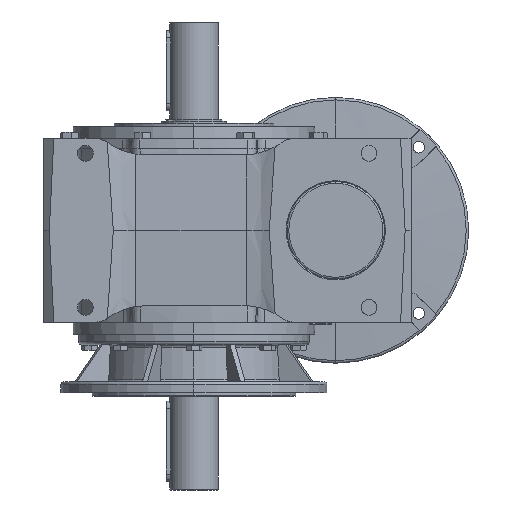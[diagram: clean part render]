
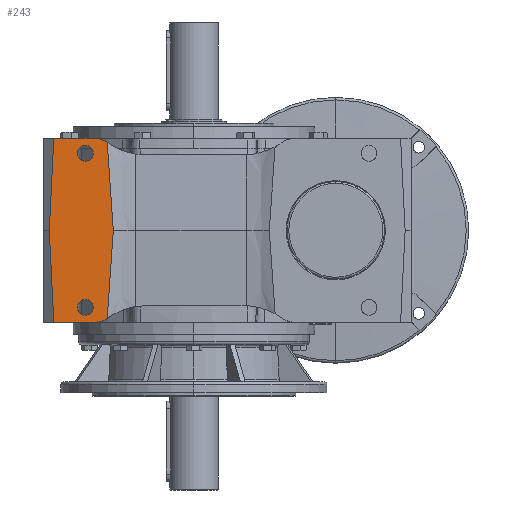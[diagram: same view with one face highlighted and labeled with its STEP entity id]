
A CAD part, left-side view. The second image highlights one B-rep face of the part: STEP entity #243.
In plain terms, the highlighted planar face has unit normal (-1, 0, 0).
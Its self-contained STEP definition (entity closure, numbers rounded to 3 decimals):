
#73 = VERTEX_POINT ( 'NONE', #31694 ) ;
#243 = ADVANCED_FACE ( 'NONE', ( #109684, #83463, #39307 ), #51735, .F. ) ;
#990 = CARTESIAN_POINT ( 'NONE',  ( -170., 92.258, -16.555 ) ) ;
#1153 = EDGE_CURVE ( 'NONE', #12434, #64230, #64775, .T. ) ;
#2210 = CARTESIAN_POINT ( 'NONE',  ( -170., 64.974, 104. ) ) ;
#3663 = EDGE_CURVE ( 'NONE', #89719, #73, #40336, .T. ) ;
#3740 = CARTESIAN_POINT ( 'NONE',  ( -170., 93.44, 33.115 ) ) ;
#4098 = VECTOR ( 'NONE', #42781, 1000. ) ;
#5344 = DIRECTION ( 'NONE',  ( -1., 0., 0. ) ) ;
#9798 = CARTESIAN_POINT ( 'NONE',  ( -170., 91.006, 0. ) ) ;
#10620 = CARTESIAN_POINT ( 'NONE',  ( -170., 122.5, -78. ) ) ;
#11312 = CIRCLE ( 'NONE', #21838, 9. ) ;
#11388 = ORIENTED_EDGE ( 'NONE', *, *, #44982, .F. ) ;
#12434 = VERTEX_POINT ( 'NONE', #77180 ) ;
#13824 = VERTEX_POINT ( 'NONE', #96093 ) ;
#17088 = ORIENTED_EDGE ( 'NONE', *, *, #64943, .T. ) ;
#18664 = CARTESIAN_POINT ( 'NONE',  ( -170., 93.44, -33.115 ) ) ;
#21838 = AXIS2_PLACEMENT_3D ( 'NONE', #97545, #44755, #106405 ) ;
#23187 = AXIS2_PLACEMENT_3D ( 'NONE', #95669, #33960, #60592 ) ;
#24915 = EDGE_CURVE ( 'NONE', #12434, #29427, #111631, .T. ) ;
#25866 = CARTESIAN_POINT ( 'NONE',  ( -170., 122.5, 78. ) ) ;
#26913 = AXIS2_PLACEMENT_3D ( 'NONE', #46255, #107926, #55069 ) ;
#26924 = EDGE_CURVE ( 'NONE', #13824, #38400, #96352, .T. ) ;
#27348 = CARTESIAN_POINT ( 'NONE',  ( -170., 113.851, -74. ) ) ;
#27494 = LINE ( 'NONE', #51235, #4098 ) ;
#27513 = CARTESIAN_POINT ( 'NONE',  ( -170., 96.799, -82.808 ) ) ;
#28520 = ORIENTED_EDGE ( 'NONE', *, *, #46827, .F. ) ;
#29427 = VERTEX_POINT ( 'NONE', #51637 ) ;
#30614 = CARTESIAN_POINT ( 'NONE',  ( -170., 97.852, 99.377 ) ) ;
#31064 = CARTESIAN_POINT ( 'NONE',  ( -170., 95.711, 66.242 ) ) ;
#31694 = CARTESIAN_POINT ( 'NONE',  ( -170., 122.5, -96. ) ) ;
#33620 = AXIS2_PLACEMENT_3D ( 'NONE', #27348, #89047, #36199 ) ;
#33960 = DIRECTION ( 'NONE',  ( 1., 0., 0. ) ) ;
#34464 = EDGE_CURVE ( 'NONE', #64230, #88981, #98189, .T. ) ;
#36199 = DIRECTION ( 'NONE',  ( 0., 1., 0. ) ) ;
#37594 = DIRECTION ( 'NONE',  ( 0., -1., 0. ) ) ;
#38400 = VERTEX_POINT ( 'NONE', #25866 ) ;
#39307 = FACE_OUTER_BOUND ( 'NONE', #96927, .T. ) ;
#39943 = CARTESIAN_POINT ( 'NONE',  ( -170., 97.852, 99.377 ) ) ;
#40336 = CIRCLE ( 'NONE', #86971, 9. ) ;
#42781 = DIRECTION ( 'NONE',  ( 0., 1., 0. ) ) ;
#43302 = DIRECTION ( 'NONE',  ( -1., 0., 0. ) ) ;
#44755 = DIRECTION ( 'NONE',  ( -1., 0., 0. ) ) ;
#44982 = EDGE_CURVE ( 'NONE', #73420, #88981, #96856, .T. ) ;
#46070 = DIRECTION ( 'NONE',  ( -1., 0., 0. ) ) ;
#46255 = CARTESIAN_POINT ( 'NONE',  ( -170., 122.5, 87. ) ) ;
#46827 = EDGE_CURVE ( 'NONE', #73, #89719, #110416, .T. ) ;
#47159 = ORIENTED_EDGE ( 'NONE', *, *, #61983, .T. ) ;
#47188 = VECTOR ( 'NONE', #37594, 1000. ) ;
#50603 = EDGE_LOOP ( 'NONE', ( #70525, #28520 ) ) ;
#51235 = CARTESIAN_POINT ( 'NONE',  ( -170., 64.974, -104. ) ) ;
#51637 = CARTESIAN_POINT ( 'NONE',  ( -170., 97.852, -99.377 ) ) ;
#51735 = PLANE ( 'NONE',  #23187 ) ;
#52291 = CARTESIAN_POINT ( 'NONE',  ( -170., 158.098, -104. ) ) ;
#55069 = DIRECTION ( 'NONE',  ( 0., 0., 1. ) ) ;
#55324 = ORIENTED_EDGE ( 'NONE', *, *, #24915, .F. ) ;
#57223 = CARTESIAN_POINT ( 'NONE',  ( -170., 158.159, -102.763 ) ) ;
#58138 = CARTESIAN_POINT ( 'NONE',  ( -170., 122.5, -87. ) ) ;
#59036 = ORIENTED_EDGE ( 'NONE', *, *, #64933, .F. ) ;
#59195 = EDGE_LOOP ( 'NONE', ( #69066, #59036 ) ) ;
#60592 = DIRECTION ( 'NONE',  ( 0., 1., 0. ) ) ;
#61983 = EDGE_CURVE ( 'NONE', #69552, #95018, #113881, .T. ) ;
#64230 = VERTEX_POINT ( 'NONE', #30614 ) ;
#64675 = EDGE_CURVE ( 'NONE', #69552, #73420, #101076, .T. ) ;
#64775 = B_SPLINE_CURVE_WITH_KNOTS ( 'NONE', 3,
 ( #83904, #74932, #3740, #31064, #92746, #39943 ),
 .UNSPECIFIED., .F., .F.,
 ( 4, 2, 4 ),
 ( 0.098, 0.147, 0.197 ),
 .UNSPECIFIED. ) ;
#64933 = EDGE_CURVE ( 'NONE', #38400, #13824, #11312, .T. ) ;
#64943 = EDGE_CURVE ( 'NONE', #90750, #29427, #78903, .T. ) ;
#65064 = ORIENTED_EDGE ( 'NONE', *, *, #34464, .T. ) ;
#66983 = DIRECTION ( 'NONE',  ( 0., 0., 1. ) ) ;
#69066 = ORIENTED_EDGE ( 'NONE', *, *, #26924, .F. ) ;
#69198 = EDGE_CURVE ( 'NONE', #90750, #95018, #27494, .T. ) ;
#69262 = VECTOR ( 'NONE', #74794, 1000. ) ;
#69552 = VERTEX_POINT ( 'NONE', #85086 ) ;
#70525 = ORIENTED_EDGE ( 'NONE', *, *, #3663, .F. ) ;
#71085 = CARTESIAN_POINT ( 'NONE',  ( -170., 158.098, 104. ) ) ;
#73385 = CARTESIAN_POINT ( 'NONE',  ( -170., 113.851, -104. ) ) ;
#73420 = VERTEX_POINT ( 'NONE', #71085 ) ;
#74794 = DIRECTION ( 'NONE',  ( 0., -0.049, 0.999 ) ) ;
#74932 = CARTESIAN_POINT ( 'NONE',  ( -170., 92.258, 16.555 ) ) ;
#77176 = AXIS2_PLACEMENT_3D ( 'NONE', #96086, #43302, #104959 ) ;
#77180 = CARTESIAN_POINT ( 'NONE',  ( -170., 91.006, 0. ) ) ;
#78903 = CIRCLE ( 'NONE', #33620, 30. ) ;
#80317 = CARTESIAN_POINT ( 'NONE',  ( -170., 95.711, -66.242 ) ) ;
#83463 = FACE_BOUND ( 'NONE', #59195, .T. ) ;
#83904 = CARTESIAN_POINT ( 'NONE',  ( -170., 91.006, 0. ) ) ;
#85086 = CARTESIAN_POINT ( 'NONE',  ( -170., 163.234, 0. ) ) ;
#85909 = ORIENTED_EDGE ( 'NONE', *, *, #69198, .F. ) ;
#86971 = AXIS2_PLACEMENT_3D ( 'NONE', #58138, #5344, #66983 ) ;
#88981 = VERTEX_POINT ( 'NONE', #100676 ) ;
#89047 = DIRECTION ( 'NONE',  ( -1., 0., 0. ) ) ;
#89217 = CARTESIAN_POINT ( 'NONE',  ( -170., 97.852, -99.377 ) ) ;
#89719 = VERTEX_POINT ( 'NONE', #10620 ) ;
#90750 = VERTEX_POINT ( 'NONE', #73385 ) ;
#92604 = CARTESIAN_POINT ( 'NONE',  ( -170., 158.159, 102.763 ) ) ;
#92746 = CARTESIAN_POINT ( 'NONE',  ( -170., 96.799, 82.809 ) ) ;
#95018 = VERTEX_POINT ( 'NONE', #52291 ) ;
#95669 = CARTESIAN_POINT ( 'NONE',  ( -170., 170., 149. ) ) ;
#96086 = CARTESIAN_POINT ( 'NONE',  ( -170., 122.5, -87. ) ) ;
#96093 = CARTESIAN_POINT ( 'NONE',  ( -170., 122.5, 96. ) ) ;
#96352 = CIRCLE ( 'NONE', #26913, 9. ) ;
#96856 = LINE ( 'NONE', #2210, #47188 ) ;
#96927 = EDGE_LOOP ( 'NONE', ( #112669, #65064, #11388, #104004, #47159, #85909, #17088, #55324 ) ) ;
#97545 = CARTESIAN_POINT ( 'NONE',  ( -170., 122.5, 87. ) ) ;
#98189 = CIRCLE ( 'NONE', #99215, 30. ) ;
#98880 = CARTESIAN_POINT ( 'NONE',  ( -170., 113.851, 74. ) ) ;
#99215 = AXIS2_PLACEMENT_3D ( 'NONE', #98880, #46070, #107745 ) ;
#100676 = CARTESIAN_POINT ( 'NONE',  ( -170., 113.851, 104. ) ) ;
#101076 = LINE ( 'NONE', #92604, #69262 ) ;
#101574 = DIRECTION ( 'NONE',  ( 0., -0.049, -0.999 ) ) ;
#104004 = ORIENTED_EDGE ( 'NONE', *, *, #64675, .F. ) ;
#104959 = DIRECTION ( 'NONE',  ( 0., 0., 1. ) ) ;
#106405 = DIRECTION ( 'NONE',  ( 0., 0., 1. ) ) ;
#107745 = DIRECTION ( 'NONE',  ( 0., 1., 0. ) ) ;
#107926 = DIRECTION ( 'NONE',  ( -1., 0., 0. ) ) ;
#109684 = FACE_BOUND ( 'NONE', #50603, .T. ) ;
#110416 = CIRCLE ( 'NONE', #77176, 9. ) ;
#111191 = VECTOR ( 'NONE', #101574, 1000. ) ;
#111631 = B_SPLINE_CURVE_WITH_KNOTS ( 'NONE', 3,
 ( #9798, #990, #18664, #80317, #27513, #89217 ),
 .UNSPECIFIED., .F., .F.,
 ( 4, 2, 4 ),
 ( 0.135, 0.184, 0.234 ),
 .UNSPECIFIED. ) ;
#112669 = ORIENTED_EDGE ( 'NONE', *, *, #1153, .T. ) ;
#113881 = LINE ( 'NONE', #57223, #111191 ) ;
